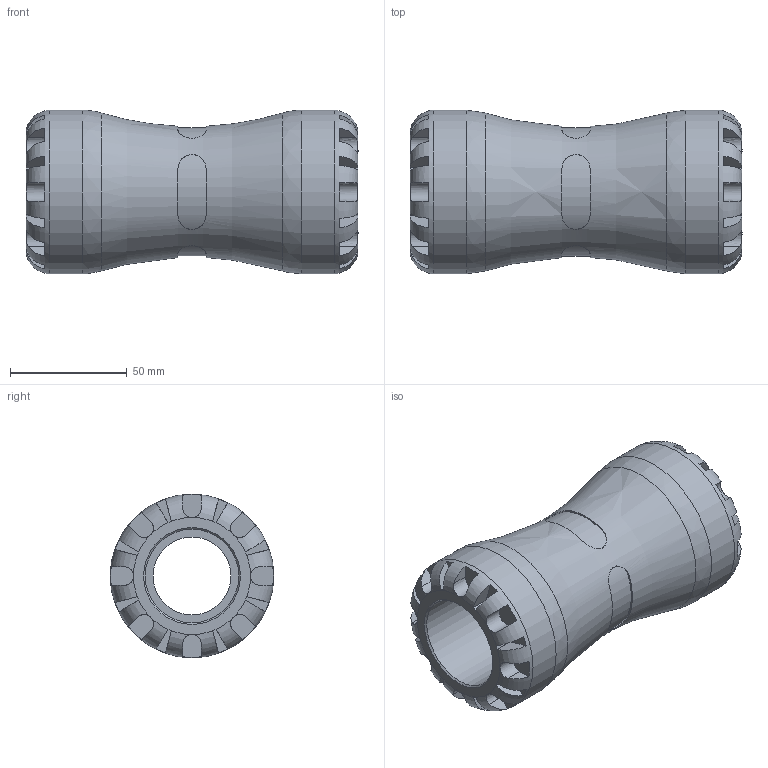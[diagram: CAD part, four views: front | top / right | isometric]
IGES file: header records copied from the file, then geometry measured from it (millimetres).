
Global section: file name: 100100040_190100040.ipt; native system: Autodesk Inventor 2015; preprocessor: unknown; author: KIM; date: 20170117.105924; units: millimetre
Bounding box: 142 x 70 x 70 mm (x, y, z)
Volume: 268691.6 mm3; surface area: 54612.3 mm2
Topology: 1 solids, 1 shells, 164 faces, 427 edges, 270 vertices
Faces by surface type: plane 108, revolution 34, cylinder 22
Full cylindrical faces by diameter (mm): 70 x2
